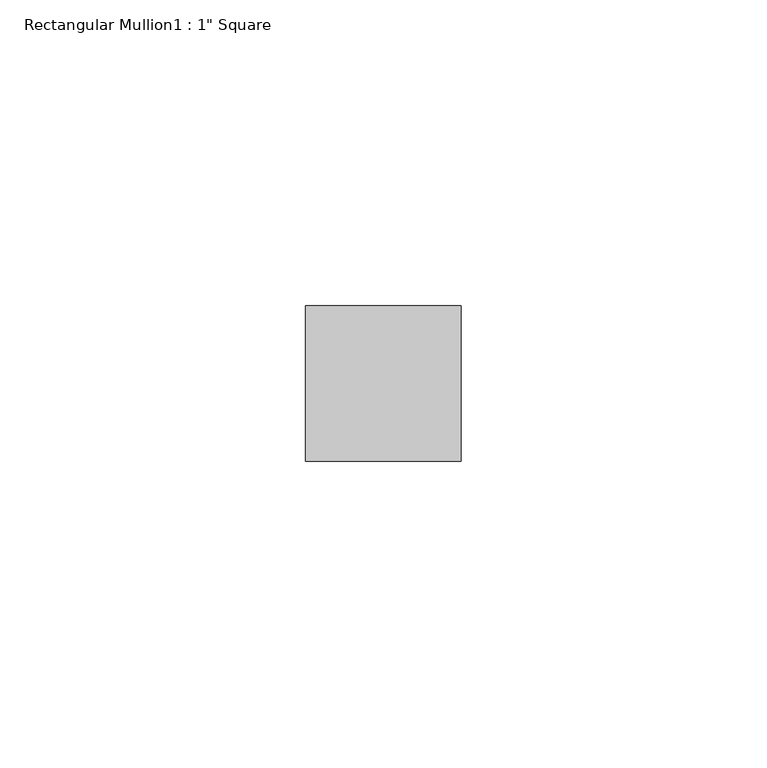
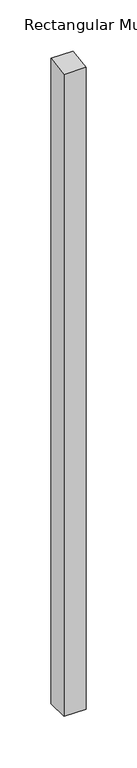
"""IFC4 building model written with IfcOpenShell, lengths in millimetres: member geometry."""

from ifc_helpers import new_model, si_unit, frame, origin, place, context, project, spatial, polyline, outline, extrude, source, transform, mapped, element, save


def member_c703cf53(model_context):
    return source(origin(), model_context, "Body", "SweptSolid", [
        extrude(outline(polyline([(-44.45, -7.0452458), (-19.05, -3.019391), (-19.05, -775.1376951), (-44.45, -775.1376951), (-44.45, -7.0452458)])), frame((-25.4, 0.0, 0.0), z_axis=(1.0, 0.0, 0.0), x_axis=(0.0, 1.0, 0.0)), (0.0, 0.0, 1.0), 25.4),
    ])


if __name__ == "__main__":
    model = new_model("IFC4")
    model_context = context("Model", 3, world=origin())
    ifc_project = project(units=[si_unit("LENGTHUNIT", "METRE", prefix="MILLI")], contexts=[model_context])
    site = spatial("IfcSite", under=ifc_project)
    building = spatial("IfcBuilding", under=site)
    placement = place(None, origin())
    member_shape = member_c703cf53(model_context)
    element("IfcMember", 1, ObjectType="Rectangular Mullion1 : 1\" Square", at=placement, inside=building, context=model_context, shape_type="MappedRepresentation", body=[
        mapped(member_shape, transform((0.0, 0.0, 0.0), x_axis=(1.0, 0.0, 0.0), y_axis=(0.0, 1.0, 0.0), z_axis=(0.0, 0.0, 1.0))),
    ])
    save(model, "model.ifc")
